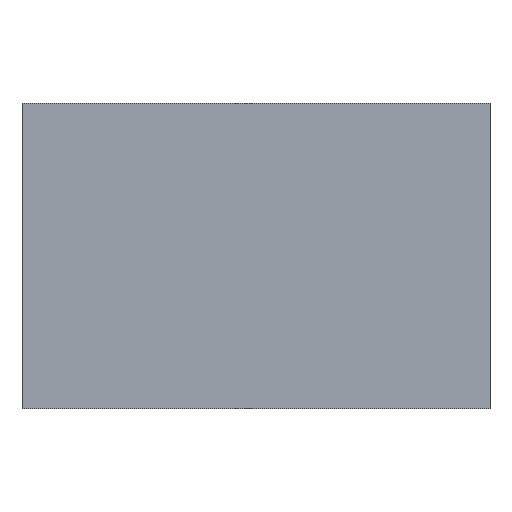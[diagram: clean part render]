
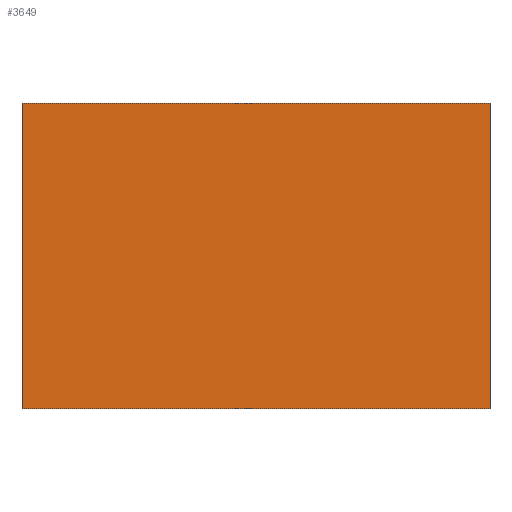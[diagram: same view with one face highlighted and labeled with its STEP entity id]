
A CAD part, left-side view. The second image highlights one B-rep face of the part: STEP entity #3649.
In plain terms, the highlighted planar face has unit normal (-1, 0, 0).
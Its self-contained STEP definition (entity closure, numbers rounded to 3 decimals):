
#195 = EDGE_LOOP ( 'NONE', ( #477, #475, #476, #3057 ) ) ;
#328 = VERTEX_POINT ( 'NONE', #1644 ) ;
#475 = ORIENTED_EDGE ( 'NONE', *, *, #3111, .T. ) ;
#476 = ORIENTED_EDGE ( 'NONE', *, *, #3112, .T. ) ;
#477 = ORIENTED_EDGE ( 'NONE', *, *, #3110, .F. ) ;
#871 = LINE ( 'NONE', #2497, #880 ) ;
#877 = LINE ( 'NONE', #2475, #884 ) ;
#879 = LINE ( 'NONE', #2715, #882 ) ;
#880 = VECTOR ( 'NONE', #2577, 1000. ) ;
#882 = VECTOR ( 'NONE', #2726, 1000. ) ;
#883 = LINE ( 'NONE', #2601, #886 ) ;
#884 = VECTOR ( 'NONE', #2725, 1000. ) ;
#886 = VECTOR ( 'NONE', #2640, 1000. ) ;
#1029 = FACE_OUTER_BOUND ( 'NONE', #195, .T. ) ;
#1117 = AXIS2_PLACEMENT_3D ( 'NONE', #3884, #3872, #3871 ) ;
#1644 = CARTESIAN_POINT ( 'NONE',  ( -120., -0.5, 0. ) ) ;
#2129 = CARTESIAN_POINT ( 'NONE',  ( -120., -0.5, 75. ) ) ;
#2149 = CARTESIAN_POINT ( 'NONE',  ( -120., 114.5, 75. ) ) ;
#2161 = CARTESIAN_POINT ( 'NONE',  ( -120., 114.5, 0. ) ) ;
#2475 = CARTESIAN_POINT ( 'NONE',  ( -120., 0., 0. ) ) ;
#2497 = CARTESIAN_POINT ( 'NONE',  ( -120., 0., 75. ) ) ;
#2577 = DIRECTION ( 'NONE',  ( 0., -1., 0. ) ) ;
#2601 = CARTESIAN_POINT ( 'NONE',  ( -120., -0.5, 0. ) ) ;
#2640 = DIRECTION ( 'NONE',  ( 0., 0., 1. ) ) ;
#2715 = CARTESIAN_POINT ( 'NONE',  ( -120., 114.5, 0. ) ) ;
#2725 = DIRECTION ( 'NONE',  ( 0., -1., 0. ) ) ;
#2726 = DIRECTION ( 'NONE',  ( 0., 0., -1. ) ) ;
#3057 = ORIENTED_EDGE ( 'NONE', *, *, #3113, .T. ) ;
#3110 = EDGE_CURVE ( 'NONE', #4248, #4261, #871, .T. ) ;
#3111 = EDGE_CURVE ( 'NONE', #4248, #4243, #879, .T. ) ;
#3112 = EDGE_CURVE ( 'NONE', #4243, #328, #877, .T. ) ;
#3113 = EDGE_CURVE ( 'NONE', #328, #4261, #883, .T. ) ;
#3649 = ADVANCED_FACE ( 'NONE', ( #1029 ), #3875, .T. ) ;
#3871 = DIRECTION ( 'NONE',  ( 0., 0., 1. ) ) ;
#3872 = DIRECTION ( 'NONE',  ( -1., 0., 0. ) ) ;
#3875 = PLANE ( 'NONE',  #1117 ) ;
#3884 = CARTESIAN_POINT ( 'NONE',  ( -120., 0., 0. ) ) ;
#4243 = VERTEX_POINT ( 'NONE', #2161 ) ;
#4248 = VERTEX_POINT ( 'NONE', #2149 ) ;
#4261 = VERTEX_POINT ( 'NONE', #2129 ) ;
